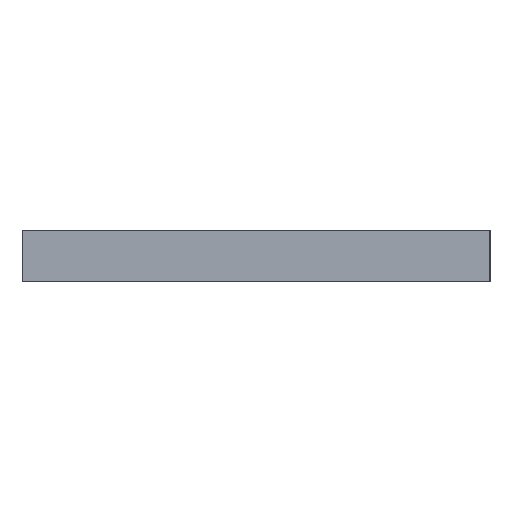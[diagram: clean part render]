
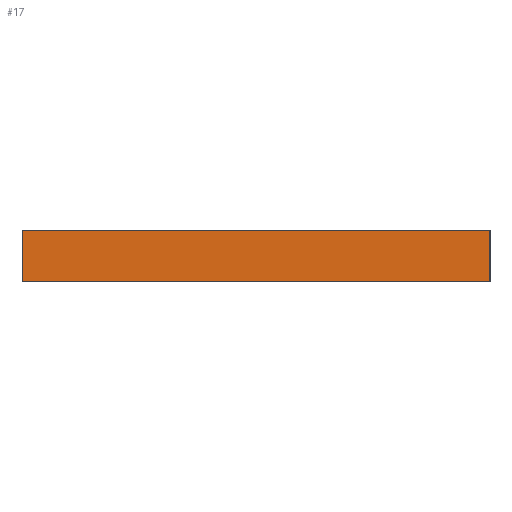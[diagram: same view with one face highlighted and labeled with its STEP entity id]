
A CAD part, left-side view. The second image highlights one B-rep face of the part: STEP entity #17.
In plain terms, the highlighted planar face has unit normal (-1, 0, 0).
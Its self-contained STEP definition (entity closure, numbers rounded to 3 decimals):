
#17 = ADVANCED_FACE('',(#18),#32,.F.);
#18 = FACE_BOUND('',#19,.F.);
#19 = EDGE_LOOP('',(#20,#55,#83,#111));
#20 = ORIENTED_EDGE('',*,*,#21,.F.);
#21 = EDGE_CURVE('',#22,#24,#26,.T.);
#22 = VERTEX_POINT('',#23);
#23 = CARTESIAN_POINT('',(11.,-38.45,-6.3));
#24 = VERTEX_POINT('',#25);
#25 = CARTESIAN_POINT('',(11.,-38.45,-6.2));
#26 = SURFACE_CURVE('',#27,(#31,#43),.PCURVE_S1.);
#27 = LINE('',#28,#29);
#28 = CARTESIAN_POINT('',(11.,-38.45,-6.3));
#29 = VECTOR('',#30,1.);
#30 = DIRECTION('',(0.,0.,1.));
#31 = PCURVE('',#32,#37);
#32 = PLANE('',#33);
#33 = AXIS2_PLACEMENT_3D('',#34,#35,#36);
#34 = CARTESIAN_POINT('',(11.,-38.45,-6.3));
#35 = DIRECTION('',(1.,0.,-0.));
#36 = DIRECTION('',(0.,0.,1.));
#37 = DEFINITIONAL_REPRESENTATION('',(#38),#42);
#38 = LINE('',#39,#40);
#39 = CARTESIAN_POINT('',(0.,0.));
#40 = VECTOR('',#41,1.);
#41 = DIRECTION('',(1.,0.));
#42 = ( GEOMETRIC_REPRESENTATION_CONTEXT(2) 
PARAMETRIC_REPRESENTATION_CONTEXT() REPRESENTATION_CONTEXT('2D SPACE',''
  ) );
#43 = PCURVE('',#44,#49);
#44 = PLANE('',#45);
#45 = AXIS2_PLACEMENT_3D('',#46,#47,#48);
#46 = CARTESIAN_POINT('',(11.,-38.45,-6.3));
#47 = DIRECTION('',(-0.,1.,0.));
#48 = DIRECTION('',(0.,0.,1.));
#49 = DEFINITIONAL_REPRESENTATION('',(#50),#54);
#50 = LINE('',#51,#52);
#51 = CARTESIAN_POINT('',(0.,0.));
#52 = VECTOR('',#53,1.);
#53 = DIRECTION('',(1.,0.));
#54 = ( GEOMETRIC_REPRESENTATION_CONTEXT(2) 
PARAMETRIC_REPRESENTATION_CONTEXT() REPRESENTATION_CONTEXT('2D SPACE',''
  ) );
#55 = ORIENTED_EDGE('',*,*,#56,.T.);
#56 = EDGE_CURVE('',#22,#57,#59,.T.);
#57 = VERTEX_POINT('',#58);
#58 = CARTESIAN_POINT('',(11.,-37.55,-6.3));
#59 = SURFACE_CURVE('',#60,(#64,#71),.PCURVE_S1.);
#60 = LINE('',#61,#62);
#61 = CARTESIAN_POINT('',(11.,-38.45,-6.3));
#62 = VECTOR('',#63,1.);
#63 = DIRECTION('',(-0.,1.,0.));
#64 = PCURVE('',#32,#65);
#65 = DEFINITIONAL_REPRESENTATION('',(#66),#70);
#66 = LINE('',#67,#68);
#67 = CARTESIAN_POINT('',(0.,0.));
#68 = VECTOR('',#69,1.);
#69 = DIRECTION('',(0.,-1.));
#70 = ( GEOMETRIC_REPRESENTATION_CONTEXT(2) 
PARAMETRIC_REPRESENTATION_CONTEXT() REPRESENTATION_CONTEXT('2D SPACE',''
  ) );
#71 = PCURVE('',#72,#77);
#72 = PLANE('',#73);
#73 = AXIS2_PLACEMENT_3D('',#74,#75,#76);
#74 = CARTESIAN_POINT('',(11.,-38.45,-6.3));
#75 = DIRECTION('',(0.,0.,1.));
#76 = DIRECTION('',(1.,0.,-0.));
#77 = DEFINITIONAL_REPRESENTATION('',(#78),#82);
#78 = LINE('',#79,#80);
#79 = CARTESIAN_POINT('',(0.,0.));
#80 = VECTOR('',#81,1.);
#81 = DIRECTION('',(0.,1.));
#82 = ( GEOMETRIC_REPRESENTATION_CONTEXT(2) 
PARAMETRIC_REPRESENTATION_CONTEXT() REPRESENTATION_CONTEXT('2D SPACE',''
  ) );
#83 = ORIENTED_EDGE('',*,*,#84,.T.);
#84 = EDGE_CURVE('',#57,#85,#87,.T.);
#85 = VERTEX_POINT('',#86);
#86 = CARTESIAN_POINT('',(11.,-37.55,-6.2));
#87 = SURFACE_CURVE('',#88,(#92,#99),.PCURVE_S1.);
#88 = LINE('',#89,#90);
#89 = CARTESIAN_POINT('',(11.,-37.55,-6.3));
#90 = VECTOR('',#91,1.);
#91 = DIRECTION('',(0.,0.,1.));
#92 = PCURVE('',#32,#93);
#93 = DEFINITIONAL_REPRESENTATION('',(#94),#98);
#94 = LINE('',#95,#96);
#95 = CARTESIAN_POINT('',(0.,-0.9));
#96 = VECTOR('',#97,1.);
#97 = DIRECTION('',(1.,0.));
#98 = ( GEOMETRIC_REPRESENTATION_CONTEXT(2) 
PARAMETRIC_REPRESENTATION_CONTEXT() REPRESENTATION_CONTEXT('2D SPACE',''
  ) );
#99 = PCURVE('',#100,#105);
#100 = PLANE('',#101);
#101 = AXIS2_PLACEMENT_3D('',#102,#103,#104);
#102 = CARTESIAN_POINT('',(11.,-37.55,-6.3));
#103 = DIRECTION('',(-0.,1.,0.));
#104 = DIRECTION('',(0.,0.,1.));
#105 = DEFINITIONAL_REPRESENTATION('',(#106),#110);
#106 = LINE('',#107,#108);
#107 = CARTESIAN_POINT('',(0.,0.));
#108 = VECTOR('',#109,1.);
#109 = DIRECTION('',(1.,0.));
#110 = ( GEOMETRIC_REPRESENTATION_CONTEXT(2) 
PARAMETRIC_REPRESENTATION_CONTEXT() REPRESENTATION_CONTEXT('2D SPACE',''
  ) );
#111 = ORIENTED_EDGE('',*,*,#112,.F.);
#112 = EDGE_CURVE('',#24,#85,#113,.T.);
#113 = SURFACE_CURVE('',#114,(#118,#125),.PCURVE_S1.);
#114 = LINE('',#115,#116);
#115 = CARTESIAN_POINT('',(11.,-38.45,-6.2));
#116 = VECTOR('',#117,1.);
#117 = DIRECTION('',(-0.,1.,0.));
#118 = PCURVE('',#32,#119);
#119 = DEFINITIONAL_REPRESENTATION('',(#120),#124);
#120 = LINE('',#121,#122);
#121 = CARTESIAN_POINT('',(0.1,0.));
#122 = VECTOR('',#123,1.);
#123 = DIRECTION('',(0.,-1.));
#124 = ( GEOMETRIC_REPRESENTATION_CONTEXT(2) 
PARAMETRIC_REPRESENTATION_CONTEXT() REPRESENTATION_CONTEXT('2D SPACE',''
  ) );
#125 = PCURVE('',#126,#131);
#126 = PLANE('',#127);
#127 = AXIS2_PLACEMENT_3D('',#128,#129,#130);
#128 = CARTESIAN_POINT('',(11.,-38.45,-6.2));
#129 = DIRECTION('',(0.,0.,1.));
#130 = DIRECTION('',(1.,0.,-0.));
#131 = DEFINITIONAL_REPRESENTATION('',(#132),#136);
#132 = LINE('',#133,#134);
#133 = CARTESIAN_POINT('',(0.,0.));
#134 = VECTOR('',#135,1.);
#135 = DIRECTION('',(0.,1.));
#136 = ( GEOMETRIC_REPRESENTATION_CONTEXT(2) 
PARAMETRIC_REPRESENTATION_CONTEXT() REPRESENTATION_CONTEXT('2D SPACE',''
  ) );
